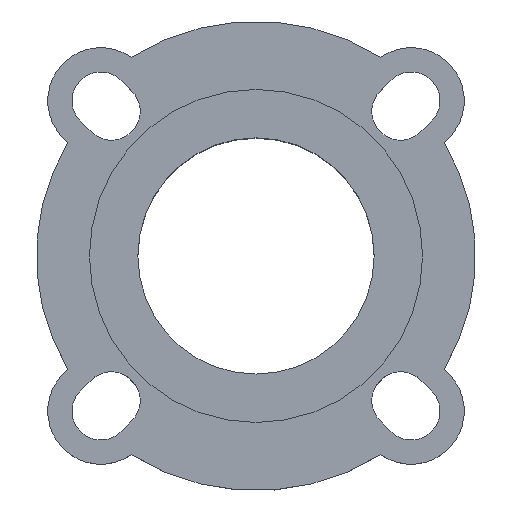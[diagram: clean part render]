
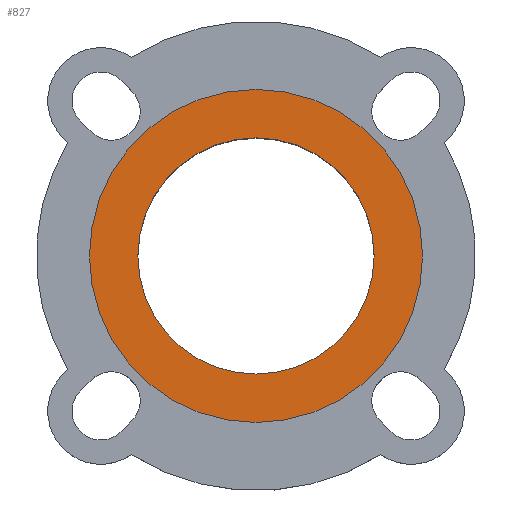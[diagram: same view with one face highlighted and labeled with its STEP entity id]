
A CAD part, top view. The second image highlights one B-rep face of the part: STEP entity #827.
In plain terms, the highlighted planar face has unit normal (0, 0, 1).
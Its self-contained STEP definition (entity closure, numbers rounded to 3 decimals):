
#2=CARTESIAN_POINT('',(0.,0.,0.));
#3=DIRECTION('',(0.,0.,1.));
#4=DIRECTION('',(0.,1.,0.));
#5=AXIS2_PLACEMENT_3D('',#2,#3,#4);
#11=CARTESIAN_POINT('',(0.,0.,0.));
#12=DIRECTION('',(0.,0.,-1.));
#13=DIRECTION('',(0.,1.,0.));
#14=AXIS2_PLACEMENT_3D('',#11,#12,#13);
#20=CARTESIAN_POINT('',(0.,0.,0.));
#21=DIRECTION('',(0.,0.,1.));
#22=DIRECTION('',(0.,1.,0.));
#23=AXIS2_PLACEMENT_3D('',#20,#21,#22);
#25=CARTESIAN_POINT('',(0.,0.,0.));
#26=DIRECTION('',(0.,0.,-1.));
#27=DIRECTION('',(0.,1.,0.));
#28=AXIS2_PLACEMENT_3D('',#25,#26,#27);
#610=CARTESIAN_POINT('',(0.,39.,0.));
#612=VERTEX_POINT('',#610);
#615=CARTESIAN_POINT('',(0.,55.,0.));
#617=VERTEX_POINT('',#615);
#618=CARTESIAN_POINT('',(0.,-39.,0.));
#620=VERTEX_POINT('',#618);
#623=CARTESIAN_POINT('',(0.,-55.,0.));
#625=VERTEX_POINT('',#623);
#812=CARTESIAN_POINT('',(0.,0.,0.));
#813=DIRECTION('',(0.,0.,1.));
#814=DIRECTION('',(0.,1.,0.));
#815=AXIS2_PLACEMENT_3D('',#812,#813,#814);
#816=PLANE('',#815);
#818=ORIENTED_EDGE('',*,*,#817,.F.);
#820=ORIENTED_EDGE('',*,*,#819,.T.);
#821=EDGE_LOOP('',(#818,#820));
#822=FACE_OUTER_BOUND('',#821,.F.);
#823=ORIENTED_EDGE('',*,*,#804,.F.);
#824=ORIENTED_EDGE('',*,*,#793,.T.);
#825=EDGE_LOOP('',(#823,#824));
#826=FACE_BOUND('',#825,.F.);
#827=ADVANCED_FACE('',(#822,#826),#816,.T.);
#6=CIRCLE('',#5,39.);
#15=CIRCLE('',#14,39.);
#24=CIRCLE('',#23,55.);
#29=CIRCLE('',#28,55.);
#793=EDGE_CURVE('',#612,#620,#6,.T.);
#804=EDGE_CURVE('',#612,#620,#15,.T.);
#817=EDGE_CURVE('',#617,#625,#24,.T.);
#819=EDGE_CURVE('',#617,#625,#29,.T.);
